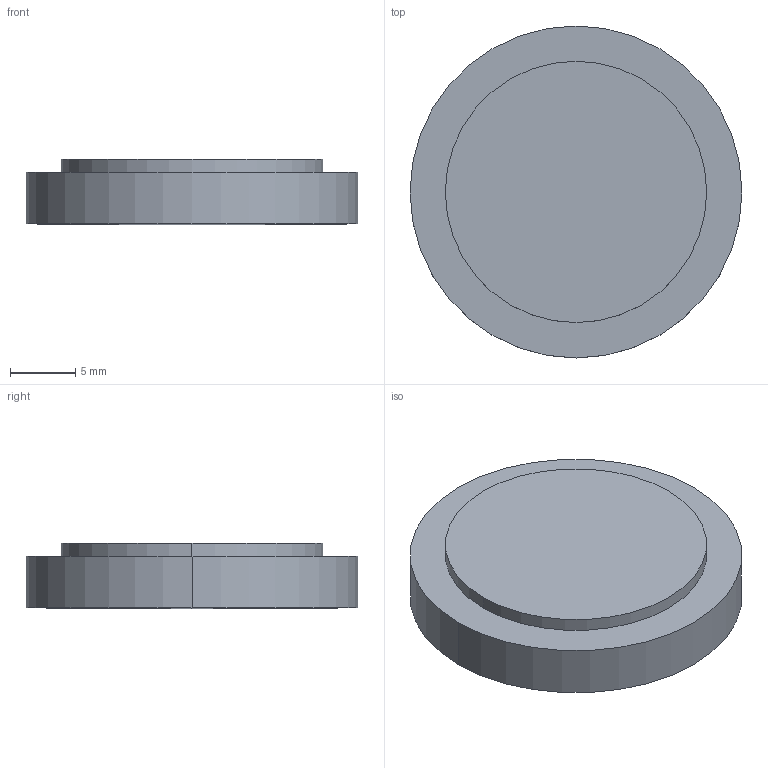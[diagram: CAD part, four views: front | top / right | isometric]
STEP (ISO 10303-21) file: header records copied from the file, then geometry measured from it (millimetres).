
FILE_DESCRIPTION(('STEP AP214'),'1');
FILE_NAME('LL-25-2M.STEP','2020-03-09T17:41:09',(' '),(' '),'Spatial InterOp 3D',' ',' ');
FILE_SCHEMA(('AUTOMOTIVE_DESIGN { 1 0 10303 214 1 1 1 1 }'));
Length unit declared in the file: millimetre
Products named in the file (1): 1
Bounding box: 25.4 x 25.4 x 5 mm (x, y, z)
Volume: 2326.5 mm3; surface area: 2019.2 mm2
Topology: 2 solids, 2 shells, 9 faces, 16 edges, 9 vertices
Faces by surface type: cylinder 4, plane 3, sphere 2
Entity records: 229 total; most frequent: DIRECTION 46, CARTESIAN_POINT 34, ORIENTED_EDGE 28, AXIS2_PLACEMENT_3D 21, EDGE_CURVE 14, CIRCLE 10, ADVANCED_FACE 9, FACE_OUTER_BOUND 9
